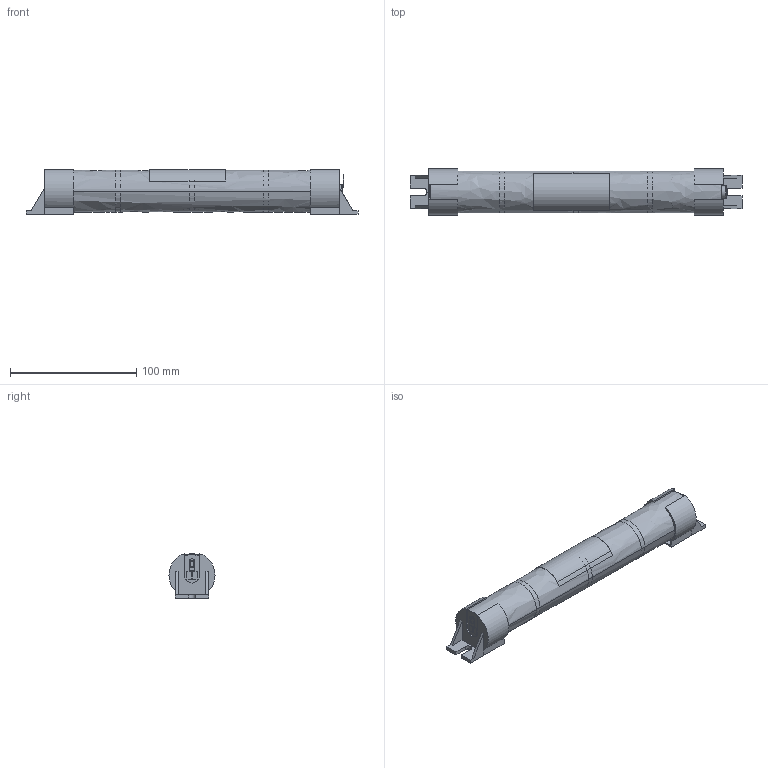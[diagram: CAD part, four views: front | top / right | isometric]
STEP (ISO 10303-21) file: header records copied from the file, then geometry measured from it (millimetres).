
FILE_DESCRIPTION((''),'2;1');
FILE_NAME('15012486Z_DMEC_89800085_4A-50','2018-07-11T13:55:04',('Emanuel.Wild'),(''),'CREO PARAMETRIC BY PTC INC, 2017380','CREO PARAMETRIC BY PTC INC, 2017380','');
FILE_SCHEMA(('AUTOMOTIVE_DESIGN { 1 0 10303 214 1 1 1 1 }'));
Length unit declared in the file: millimetre
Products named in the file (1): 15012486Z_DMEC_89800085_4A-50
Bounding box: 263.05 x 36.5 x 35.57 mm (x, y, z)
Volume: 202541.4 mm3; surface area: 47001.1 mm2
Topology: 1 solids, 6 shells, 255 faces, 671 edges, 432 vertices
Faces by surface type: bspline 166, revolution 77, extrusion 12
Entity records: 10946 total; most frequent: CARTESIAN_POINT 4852, ORIENTED_EDGE 1334, DIRECTION 859, EDGE_CURVE 671, VERTEX_POINT 432, VECTOR 384, LINE 372, EDGE_LOOP 265
